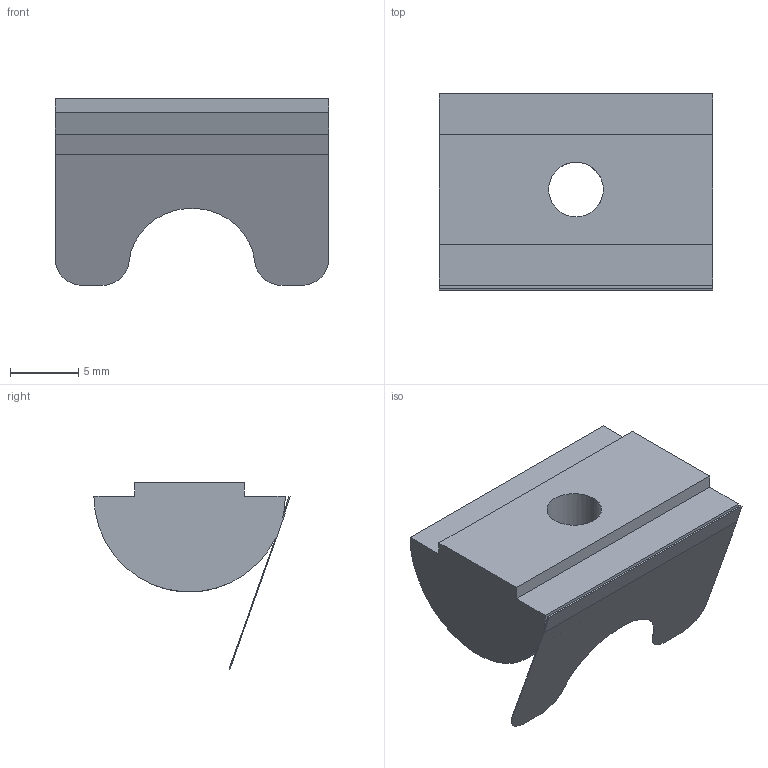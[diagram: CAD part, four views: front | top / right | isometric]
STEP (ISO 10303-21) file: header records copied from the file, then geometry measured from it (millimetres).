
FILE_DESCRIPTION (( 'STEP AP203' ), '1' );
FILE_NAME ('5258.STEP', '2016-04-16T14:09:14', ( '' ), ( '' ), 'SwSTEP 2.0', 'SolidWorks 2014', '' );
FILE_SCHEMA (( 'CONFIG_CONTROL_DESIGN' ));
Length unit declared in the file: millimetre
Products named in the file (1): 5258
Bounding box: 20 x 14.36 x 13.66 mm (x, y, z)
Volume: 1611.5 mm3; surface area: 1381.3 mm2
Topology: 1 solids, 1 shells, 23 faces, 63 edges, 42 vertices
Faces by surface type: plane 14, cylinder 9
Entity records: 868 total; most frequent: CARTESIAN_POINT 187, ORIENTED_EDGE 126, DIRECTION 125, EDGE_CURVE 63, LINE 45, VECTOR 45, VERTEX_POINT 42, AXIS2_PLACEMENT_3D 40
